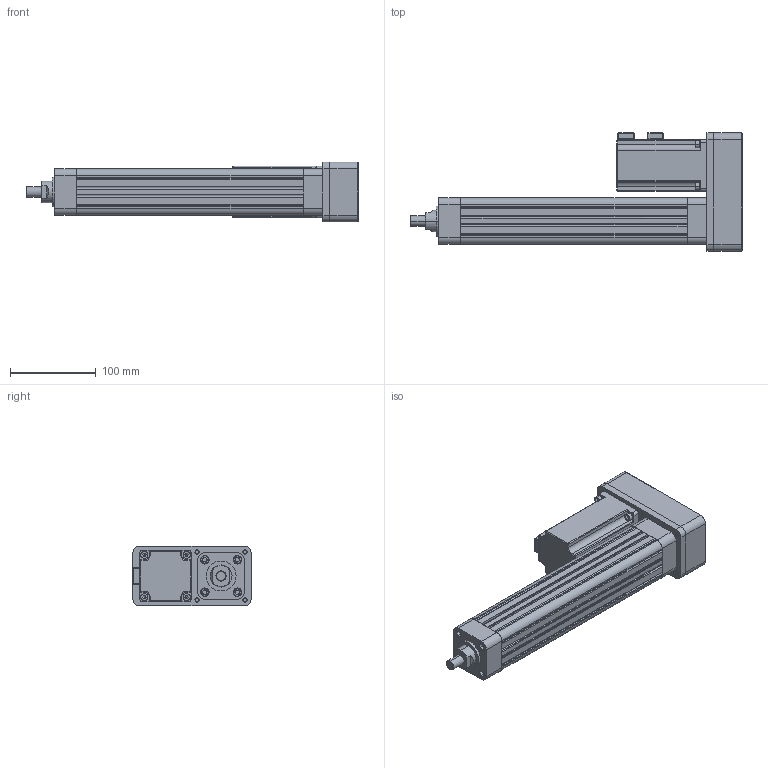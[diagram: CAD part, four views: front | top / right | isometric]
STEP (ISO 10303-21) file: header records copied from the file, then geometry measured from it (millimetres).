
FILE_DESCRIPTION (( 'STEP AP203' ), '1' );
FILE_NAME ('TEB40-04-S200-D-C.STEP', '2018-03-20T08:05:11', ( 'yanfa28' ), ( '' ), 'SwSTEP 2.0', 'SolidWorks 2012', '' );
FILE_SCHEMA (( 'CONFIG_CONTROL_DESIGN' ));
Length unit declared in the file: millimetre
Products named in the file (9): TEB40-04-S200-D-C; MOTOR200W; PART-4008; PART-4007; PART-4006; PART-4004; PART-4003_S200; PART-4002; PART-4001_S200
Assembly tree (8 placements, depth 2):
  TEB40-04-S200-D-C
    PART-4001_S200
    PART-4002
    PART-4003_S200
    PART-4004
    PART-4006
    PART-4007
    PART-4008
    MOTOR200W
Bounding box: 388.18 x 138 x 70 mm (x, y, z)
Volume: 1042816.9 mm3; surface area: 346500.2 mm2
Topology: 26 solids, 27 shells, 1358 faces, 3269 edges, 1973 vertices
Faces by surface type: cylinder 555, plane 476, torus 141, cone 110, sphere 38, bspline 38
Entity records: 41586 total; most frequent: CARTESIAN_POINT 8609, DIRECTION 7239, ORIENTED_EDGE 6358, EDGE_CURVE 3179, AXIS2_PLACEMENT_3D 2859, VERTEX_POINT 1967, EDGE_LOOP 1534, CIRCLE 1528
